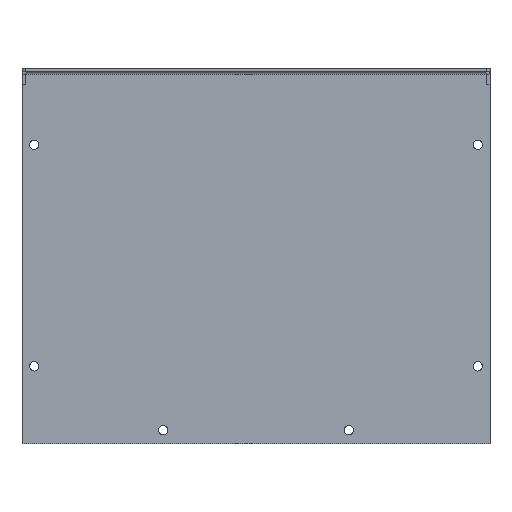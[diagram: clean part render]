
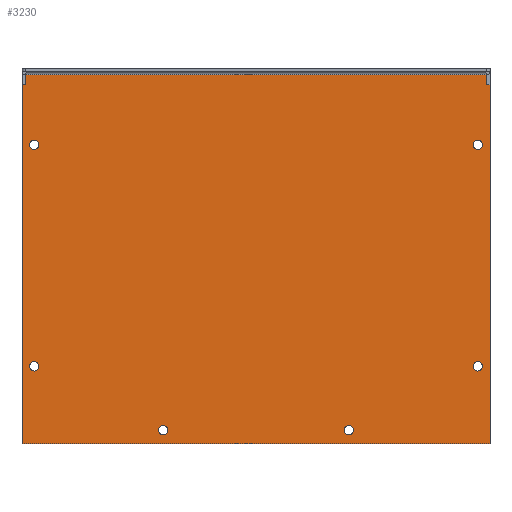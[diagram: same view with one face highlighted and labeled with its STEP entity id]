
A CAD part, front view. The second image highlights one B-rep face of the part: STEP entity #3230.
In plain terms, the highlighted planar face has unit normal (0, -1, 0).
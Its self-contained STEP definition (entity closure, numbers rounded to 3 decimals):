
#77=FACE_BOUND('',#568,.T.);
#78=FACE_BOUND('',#569,.T.);
#79=FACE_BOUND('',#570,.T.);
#80=FACE_BOUND('',#571,.T.);
#81=FACE_BOUND('',#572,.T.);
#82=FACE_BOUND('',#573,.T.);
#158=PLANE('',#3449);
#345=FACE_OUTER_BOUND('',#567,.T.);
#567=EDGE_LOOP('',(#2933,#2934,#2935,#2936));
#568=EDGE_LOOP('',(#2937));
#569=EDGE_LOOP('',(#2938));
#570=EDGE_LOOP('',(#2939));
#571=EDGE_LOOP('',(#2940));
#572=EDGE_LOOP('',(#2941));
#573=EDGE_LOOP('',(#2942));
#615=CIRCLE('',#3311,2.1);
#616=CIRCLE('',#3313,2.1);
#617=CIRCLE('',#3314,2.1);
#618=CIRCLE('',#3315,2.1);
#619=CIRCLE('',#3316,2.1);
#620=CIRCLE('',#3317,2.1);
#1029=LINE('',#9679,#1334);
#1031=LINE('',#9683,#1336);
#1032=LINE('',#9685,#1337);
#1033=LINE('',#9686,#1338);
#1334=VECTOR('',#4120,10.);
#1336=VECTOR('',#4124,10.);
#1337=VECTOR('',#4125,10.);
#1338=VECTOR('',#4126,10.);
#1438=VERTEX_POINT('',#5095);
#1448=VERTEX_POINT('',#5404);
#1449=VERTEX_POINT('',#5597);
#1450=VERTEX_POINT('',#5790);
#1451=VERTEX_POINT('',#5983);
#1452=VERTEX_POINT('',#6176);
#1653=VERTEX_POINT('',#9676);
#1654=VERTEX_POINT('',#9678);
#1655=VERTEX_POINT('',#9682);
#1656=VERTEX_POINT('',#9684);
#1746=EDGE_CURVE('',#1438,#1438,#615,.T.);
#1758=EDGE_CURVE('',#1448,#1448,#616,.T.);
#1760=EDGE_CURVE('',#1449,#1449,#617,.T.);
#1762=EDGE_CURVE('',#1450,#1450,#618,.T.);
#1764=EDGE_CURVE('',#1451,#1451,#619,.T.);
#1766=EDGE_CURVE('',#1452,#1452,#620,.T.);
#2094=EDGE_CURVE('',#1653,#1654,#1029,.T.);
#2096=EDGE_CURVE('',#1655,#1653,#1031,.T.);
#2097=EDGE_CURVE('',#1656,#1655,#1032,.T.);
#2098=EDGE_CURVE('',#1654,#1656,#1033,.T.);
#2933=ORIENTED_EDGE('',*,*,#2096,.F.);
#2934=ORIENTED_EDGE('',*,*,#2097,.F.);
#2935=ORIENTED_EDGE('',*,*,#2098,.F.);
#2936=ORIENTED_EDGE('',*,*,#2094,.F.);
#2937=ORIENTED_EDGE('',*,*,#1746,.T.);
#2938=ORIENTED_EDGE('',*,*,#1766,.T.);
#2939=ORIENTED_EDGE('',*,*,#1760,.T.);
#2940=ORIENTED_EDGE('',*,*,#1758,.T.);
#2941=ORIENTED_EDGE('',*,*,#1764,.T.);
#2942=ORIENTED_EDGE('',*,*,#1762,.T.);
#3230=ADVANCED_FACE('',(#345,#77,#78,#79,#80,#81,#82),#158,.F.);
#3311=AXIS2_PLACEMENT_3D('',#5100,#3586,#3587);
#3313=AXIS2_PLACEMENT_3D('',#5409,#3594,#3595);
#3314=AXIS2_PLACEMENT_3D('',#5602,#3596,#3597);
#3315=AXIS2_PLACEMENT_3D('',#5795,#3598,#3599);
#3316=AXIS2_PLACEMENT_3D('',#5988,#3600,#3601);
#3317=AXIS2_PLACEMENT_3D('',#6181,#3602,#3603);
#3449=AXIS2_PLACEMENT_3D('',#9681,#4122,#4123);
#3586=DIRECTION('center_axis',(0.,1.,0.));
#3587=DIRECTION('ref_axis',(-1.,0.,0.));
#3594=DIRECTION('center_axis',(0.,1.,0.));
#3595=DIRECTION('ref_axis',(-1.,0.,0.));
#3596=DIRECTION('center_axis',(0.,1.,0.));
#3597=DIRECTION('ref_axis',(-1.,0.,0.));
#3598=DIRECTION('center_axis',(0.,1.,0.));
#3599=DIRECTION('ref_axis',(-1.,0.,0.));
#3600=DIRECTION('center_axis',(0.,1.,0.));
#3601=DIRECTION('ref_axis',(-1.,0.,0.));
#3602=DIRECTION('center_axis',(0.,1.,0.));
#3603=DIRECTION('ref_axis',(-1.,0.,0.));
#4120=DIRECTION('',(0.,0.,-1.));
#4122=DIRECTION('center_axis',(0.,1.,0.));
#4123=DIRECTION('ref_axis',(-1.,0.,0.));
#4124=DIRECTION('',(1.,0.,0.));
#4125=DIRECTION('',(0.,0.,1.));
#4126=DIRECTION('',(-1.,0.,0.));
#5095=CARTESIAN_POINT('',(99.164,41.4,-91.319));
#5100=CARTESIAN_POINT('Origin',(97.064,41.4,-91.319));
#5404=CARTESIAN_POINT('',(99.164,41.4,8.681));
#5409=CARTESIAN_POINT('Origin',(97.064,41.4,8.681));
#5597=CARTESIAN_POINT('',(40.954,41.4,-120.122));
#5602=CARTESIAN_POINT('Origin',(38.854,41.4,-120.122));
#5790=CARTESIAN_POINT('',(-42.732,41.4,-120.122));
#5795=CARTESIAN_POINT('Origin',(-44.832,41.4,-120.122));
#5983=CARTESIAN_POINT('',(-100.943,41.4,-91.319));
#5988=CARTESIAN_POINT('Origin',(-103.043,41.4,-91.319));
#6176=CARTESIAN_POINT('',(-100.943,41.4,8.681));
#6181=CARTESIAN_POINT('Origin',(-103.043,41.4,8.681));
#9676=CARTESIAN_POINT('',(102.618,41.4,40.288));
#9678=CARTESIAN_POINT('',(102.618,41.4,-126.319));
#9679=CARTESIAN_POINT('',(102.618,41.4,43.681));
#9681=CARTESIAN_POINT('Origin',(-2.989,41.4,-41.319));
#9682=CARTESIAN_POINT('',(-108.596,41.4,40.288));
#9683=CARTESIAN_POINT('',(-1.495,41.4,40.288));
#9684=CARTESIAN_POINT('',(-108.596,41.4,-126.319));
#9685=CARTESIAN_POINT('',(-108.596,41.4,-126.319));
#9686=CARTESIAN_POINT('',(102.618,41.4,-126.319));
